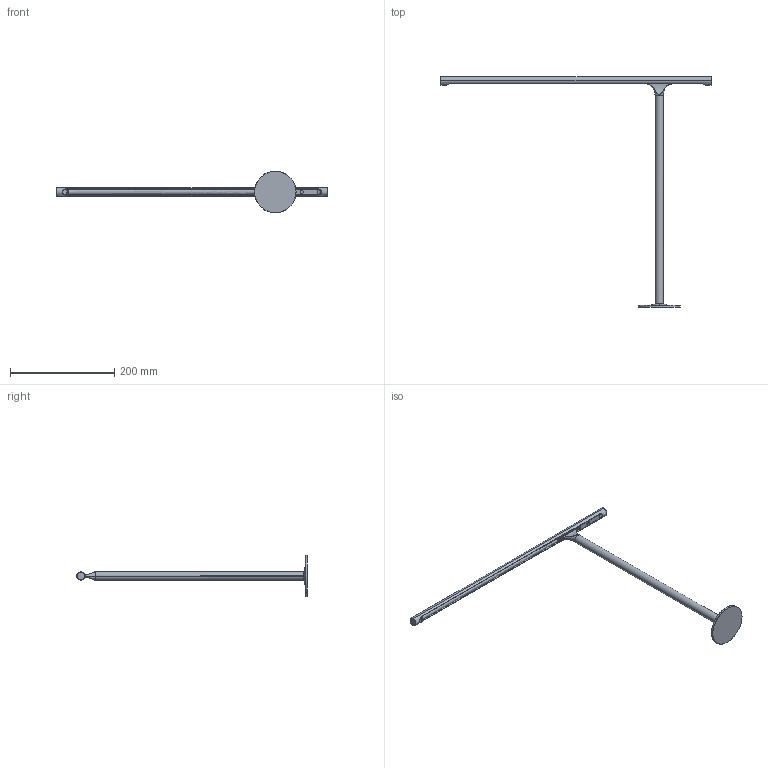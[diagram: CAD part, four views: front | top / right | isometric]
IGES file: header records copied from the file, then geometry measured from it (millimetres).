
Start section: SolidWorks IGES file using analytic representation for surfaces
Global section: file name: C:\Users\scott\Dropbox\Rakumba Industrial Design\PRODUCT\2 DEVELOPMENT\GALLERY\CAD\Gallery Lightweight CAD\Gallery - Integrated Architects Lamp.IGS; native system: SolidWorks 2017; preprocessor: SolidWorks 2017; author: scott; date: 240403.174229; units: millimetre
Bounding box: 520 x 443 x 80 mm (x, y, z)
Surface area: 77734.3 mm2 (no closed solid volume)
Topology: 0 solids, 0 shells, 163 faces, 2809 edges, 2807 vertices
Faces by surface type: bspline 102, revolution 61
